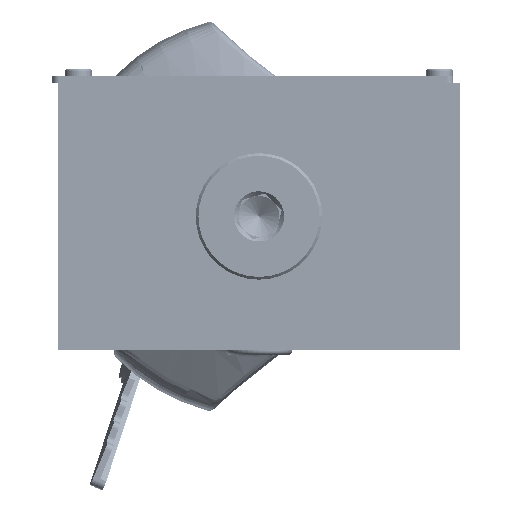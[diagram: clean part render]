
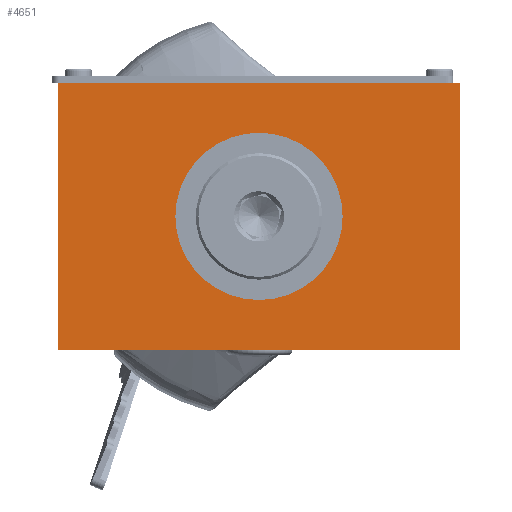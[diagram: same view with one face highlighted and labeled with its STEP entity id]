
A CAD part, front view. The second image highlights one B-rep face of the part: STEP entity #4651.
In plain terms, the highlighted planar face has unit normal (0, -1, 0).
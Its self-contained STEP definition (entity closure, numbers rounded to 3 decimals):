
#3176=CIRCLE('',#29917,12.5);
#4651=ADVANCED_FACE('',(#8241,#8242),#6429,.T.);
#6429=PLANE('',#29918);
#8241=FACE_BOUND('',#9046,.T.);
#8242=FACE_BOUND('',#9047,.T.);
#9046=EDGE_LOOP('',(#11267));
#9047=EDGE_LOOP('',(#11268,#11269,#11270,#11271));
#11267=ORIENTED_EDGE('',*,*,#22725,.F.);
#11268=ORIENTED_EDGE('',*,*,#22726,.F.);
#11269=ORIENTED_EDGE('',*,*,#22724,.F.);
#11270=ORIENTED_EDGE('',*,*,#22687,.T.);
#11271=ORIENTED_EDGE('',*,*,#22727,.T.);
#19769=VERTEX_POINT('',#40446);
#19771=VERTEX_POINT('',#40450);
#19806=VERTEX_POINT('',#40667);
#19807=VERTEX_POINT('',#40671);
#19808=VERTEX_POINT('',#40673);
#22687=EDGE_CURVE('',#19769,#19771,#26960,.T.);
#22724=EDGE_CURVE('',#19769,#19806,#26977,.T.);
#22725=EDGE_CURVE('',#19807,#19807,#3176,.T.);
#22726=EDGE_CURVE('',#19806,#19808,#26978,.T.);
#22727=EDGE_CURVE('',#19771,#19808,#26979,.T.);
#26960=LINE('',#40451,#28426);
#26977=LINE('',#40668,#28443);
#26978=LINE('',#40672,#28444);
#26979=LINE('',#40674,#28445);
#28426=VECTOR('',#32926,1.);
#28443=VECTOR('',#32979,1.);
#28444=VECTOR('',#32984,1.);
#28445=VECTOR('',#32985,1.);
#29917=AXIS2_PLACEMENT_3D('',#40670,#32982,#32983);
#29918=AXIS2_PLACEMENT_3D('',#40675,#32986,#32987);
#32926=DIRECTION('',(0.,0.,1.));
#32979=DIRECTION('',(-1.,0.,0.));
#32982=DIRECTION('',(0.,-1.,0.));
#32983=DIRECTION('',(1.,0.,0.));
#32984=DIRECTION('',(0.,0.,1.));
#32985=DIRECTION('',(-1.,0.,0.));
#32986=DIRECTION('',(0.,-1.,0.));
#32987=DIRECTION('',(1.,0.,0.));
#40446=CARTESIAN_POINT('',(37.801,-78.308,-20.));
#40450=CARTESIAN_POINT('',(37.801,-78.308,20.));
#40451=CARTESIAN_POINT('',(37.801,-78.308,-20.));
#40667=CARTESIAN_POINT('',(-22.199,-78.308,-20.));
#40668=CARTESIAN_POINT('',(37.801,-78.308,-20.));
#40670=CARTESIAN_POINT('',(7.801,-78.308,0.));
#40671=CARTESIAN_POINT('',(20.301,-78.308,0.));
#40672=CARTESIAN_POINT('',(-22.199,-78.308,-20.));
#40673=CARTESIAN_POINT('',(-22.199,-78.308,20.));
#40674=CARTESIAN_POINT('',(37.801,-78.308,20.));
#40675=CARTESIAN_POINT('',(37.801,-78.308,-20.));
